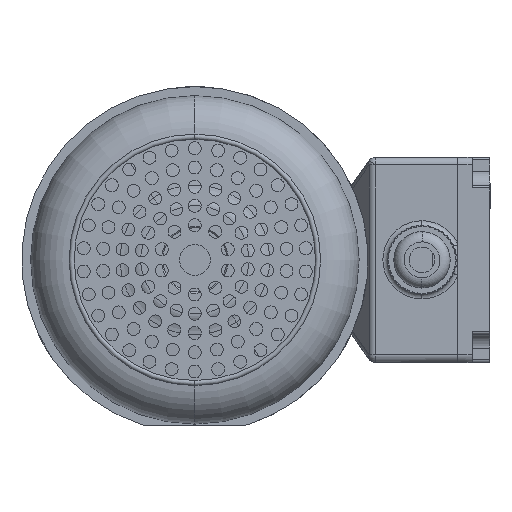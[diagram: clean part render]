
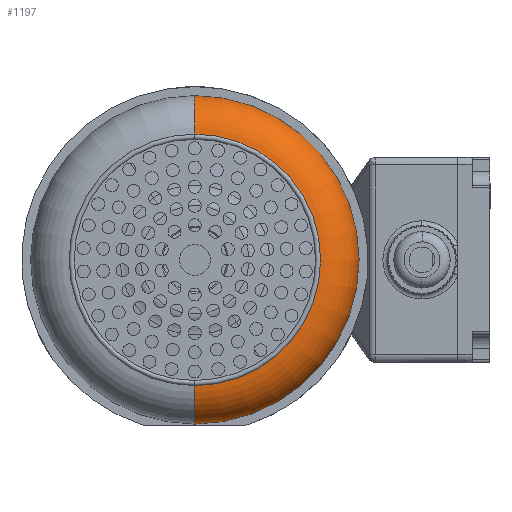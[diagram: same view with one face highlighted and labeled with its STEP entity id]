
A CAD part, front view. The second image highlights one B-rep face of the part: STEP entity #1197.
In plain terms, the highlighted toroidal (fillet/blend) face has major radius 48 mm and minor radius 16 mm.
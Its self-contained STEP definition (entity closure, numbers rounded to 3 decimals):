
#1197 = ADVANCED_FACE ( 'NONE', ( #39346 ), #81290, .T. ) ;
#1921 = CARTESIAN_POINT ( 'NONE',  ( -41.528, -193.179, 160.342 ) ) ;
#3425 = ORIENTED_EDGE ( 'NONE', *, *, #8018, .F. ) ;
#4128 = AXIS2_PLACEMENT_3D ( 'NONE', #1921, #38135, #85261 ) ;
#8018 = EDGE_CURVE ( 'NONE', #104634, #11249, #108692, .T. ) ;
#8406 = CARTESIAN_POINT ( 'NONE',  ( -42.365, -193.179, 208.335 ) ) ;
#9057 = CIRCLE ( 'NONE', #14843, 16. ) ;
#11249 = VERTEX_POINT ( 'NONE', #87551 ) ;
#11632 = ORIENTED_EDGE ( 'NONE', *, *, #47146, .F. ) ;
#13365 = EDGE_LOOP ( 'NONE', ( #3425, #44428, #78921, #11632 ) ) ;
#14220 = DIRECTION ( 'NONE',  ( 0., 1., 0. ) ) ;
#14843 = AXIS2_PLACEMENT_3D ( 'NONE', #8406, #55500, #84483 ) ;
#22224 = CARTESIAN_POINT ( 'NONE',  ( -41.528, -209.148, 160.342 ) ) ;
#38135 = DIRECTION ( 'NONE',  ( 0., 1., 0. ) ) ;
#38261 = EDGE_CURVE ( 'NONE', #46358, #119384, #81826, .T. ) ;
#39346 = FACE_OUTER_BOUND ( 'NONE', #13365, .T. ) ;
#44428 = ORIENTED_EDGE ( 'NONE', *, *, #87500, .T. ) ;
#45654 = CARTESIAN_POINT ( 'NONE',  ( -40.69, -193.179, 112.35 ) ) ;
#46358 = VERTEX_POINT ( 'NONE', #53395 ) ;
#47146 = EDGE_CURVE ( 'NONE', #11249, #46358, #9057, .T. ) ;
#52936 = AXIS2_PLACEMENT_3D ( 'NONE', #78813, #14220, #115016 ) ;
#53395 = CARTESIAN_POINT ( 'NONE',  ( -42.644, -193.179, 224.332 ) ) ;
#53509 = DIRECTION ( 'NONE',  ( -0.017, 0., 1. ) ) ;
#54856 = AXIS2_PLACEMENT_3D ( 'NONE', #45654, #56971, #53509 ) ;
#55265 = CARTESIAN_POINT ( 'NONE',  ( -40.672, -209.148, 111.35 ) ) ;
#55500 = DIRECTION ( 'NONE',  ( -1., 0., -0.017 ) ) ;
#56120 = CARTESIAN_POINT ( 'NONE',  ( -40.411, -193.179, 96.352 ) ) ;
#56971 = DIRECTION ( 'NONE',  ( 1., 0., 0.017 ) ) ;
#72168 = CIRCLE ( 'NONE', #54856, 16. ) ;
#78813 = CARTESIAN_POINT ( 'NONE',  ( -41.528, -193.179, 160.342 ) ) ;
#78921 = ORIENTED_EDGE ( 'NONE', *, *, #38261, .F. ) ;
#81290 = TOROIDAL_SURFACE ( 'NONE', #4128, 48., 16. ) ;
#81826 = CIRCLE ( 'NONE', #52936, 64. ) ;
#83667 = AXIS2_PLACEMENT_3D ( 'NONE', #22224, #103761, #113373 ) ;
#84483 = DIRECTION ( 'NONE',  ( 0., 1., 0. ) ) ;
#85261 = DIRECTION ( 'NONE',  ( -0.017, 0., 1. ) ) ;
#87500 = EDGE_CURVE ( 'NONE', #104634, #119384, #72168, .T. ) ;
#87551 = CARTESIAN_POINT ( 'NONE',  ( -42.383, -209.148, 209.334 ) ) ;
#103761 = DIRECTION ( 'NONE',  ( 0., -1., 0. ) ) ;
#104634 = VERTEX_POINT ( 'NONE', #55265 ) ;
#108692 = CIRCLE ( 'NONE', #83667, 49. ) ;
#113373 = DIRECTION ( 'NONE',  ( 0.017, 0., -1. ) ) ;
#115016 = DIRECTION ( 'NONE',  ( -0.017, 0., 1. ) ) ;
#119384 = VERTEX_POINT ( 'NONE', #56120 ) ;
